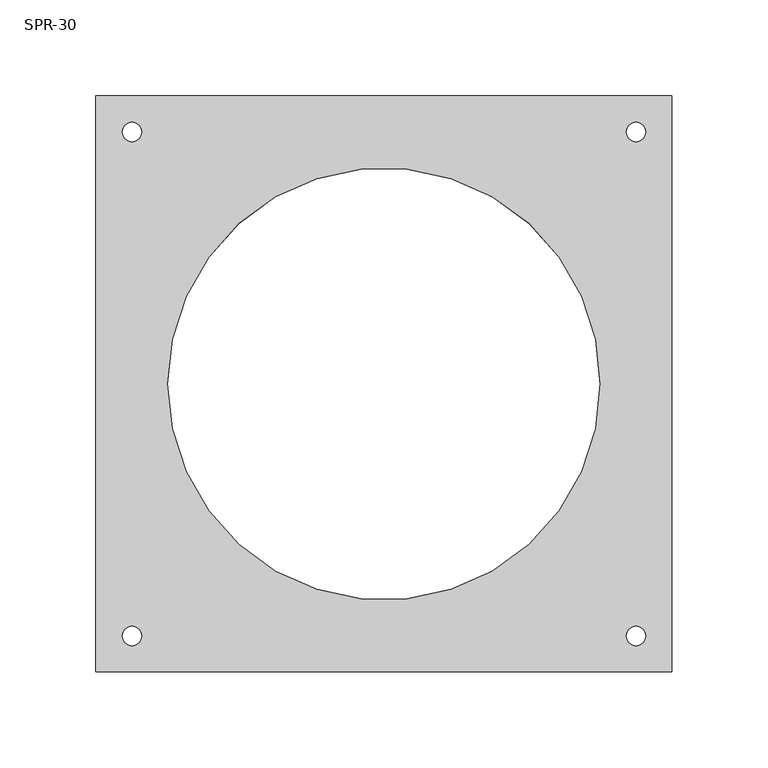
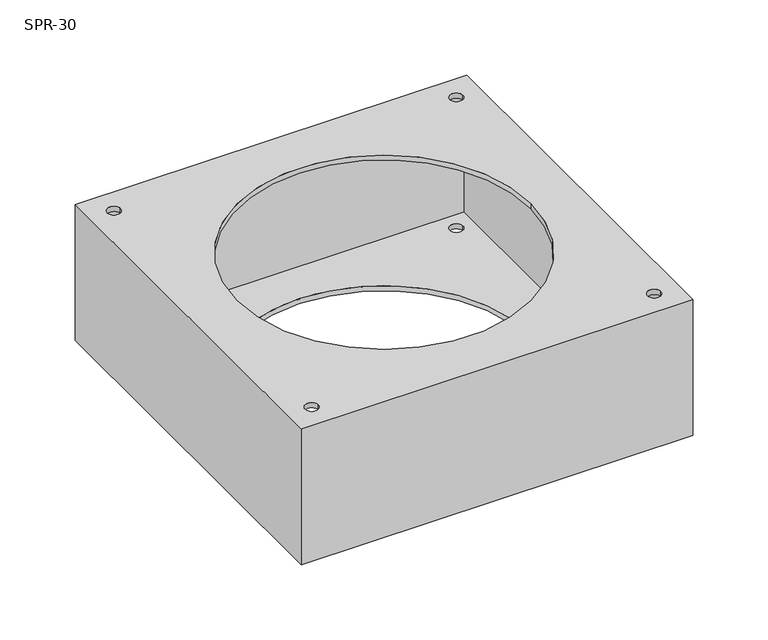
"""IFC4 building model written with IfcOpenShell, lengths in millimetres: damper geometry, СВ_КлапанИнерционный_КрышныйПрямоугольный_30-100_SPR : SPR-30."""

from ifc_helpers import new_model, si_unit, frame, origin, place, context, project, spatial, polyline, circle_curve, source, transform, mapped, element, save
from ifc_brep_helpers import plane_surface, revolved_surface, advanced_brep


def spr_30_7c3b2528(model_context):
    return source(origin(), model_context, "Body", "AdvancedBrep", [
        advanced_brep(
        [(150.0, 150.0, 0.0), (-150.0, 150.0, 0.0), (-150.0, -150.0, 0.0), (150.0, -150.0, 0.0), (-112.5, 0.0, 0.0), (112.5, 0.0, 0.0), (-126.25, -131.25, 0.0), (-136.25, -131.25, 0.0), (136.25, -131.25, 0.0), (126.25, -131.25, 0.0), (136.25, 131.25, 0.0), (126.25, 131.25, 0.0), (-126.25, 131.25, 0.0), (-136.25, 131.25, 0.0), (150.0, 150.0, -110.0), (150.0, -150.0, -110.0), (-150.0, -150.0, -110.0), (-150.0, 150.0, -110.0), (-112.5, 0.0, -110.0), (112.5, 0.0, -110.0), (-136.25, -131.25, -110.0), (-126.25, -131.25, -110.0), (126.25, -131.25, -110.0), (136.25, -131.25, -110.0), (126.25, 131.25, -110.0), (136.25, 131.25, -110.0), (-136.25, 131.25, -110.0), (-126.25, 131.25, -110.0), (-112.5, 0.0, -4.0), (112.5, 0.0, -4.0), (112.5, 0.0, -106.0), (-112.5, 0.0, -106.0), (145.0, 145.0, -4.0), (145.0, -145.0, -4.0), (-145.0, -145.0, -4.0), (-145.0, 145.0, -4.0), (-136.25, -131.25, -4.0), (-126.25, -131.25, -4.0), (126.25, -131.25, -4.0), (136.25, -131.25, -4.0), (126.25, 131.25, -4.0), (136.25, 131.25, -4.0), (-136.25, 131.25, -4.0), (-126.25, 131.25, -4.0), (145.0, 145.0, -106.0), (-145.0, 145.0, -106.0), (-145.0, -145.0, -106.0), (145.0, -145.0, -106.0), (-126.25, -131.25, -106.0), (-136.25, -131.25, -106.0), (136.25, -131.25, -106.0), (126.25, -131.25, -106.0), (136.25, 131.25, -106.0), (126.25, 131.25, -106.0), (-126.25, 131.25, -106.0), (-136.25, 131.25, -106.0)],
        [
            (0, 1),
            (1, 2),
            (2, 3),
            (3, 0),
            (4, 5, circle_curve(frame((0.0, 0.0, 0.0), z_axis=(0.0, 0.0, -1.0), x_axis=(1.0, 0.0, 0.0)), 112.5)),
            (5, 4, circle_curve(frame((0.0, 0.0, 0.0), z_axis=(0.0, 0.0, -1.0), x_axis=(1.0, 0.0, 0.0)), 112.5)),
            (6, 7, circle_curve(frame((-131.25, -131.25, 0.0), z_axis=(0.0, 0.0, -1.0), x_axis=(1.0, 0.0, 0.0)), 5.0)),
            (7, 6, circle_curve(frame((-131.25, -131.25, 0.0), z_axis=(0.0, 0.0, -1.0), x_axis=(1.0, 0.0, 0.0)), 5.0)),
            (8, 9, circle_curve(frame((131.25, -131.25, 0.0), z_axis=(0.0, 0.0, -1.0), x_axis=(1.0, 0.0, 0.0)), 5.0)),
            (9, 8, circle_curve(frame((131.25, -131.25, 0.0), z_axis=(0.0, 0.0, -1.0), x_axis=(1.0, 0.0, 0.0)), 5.0)),
            (10, 11, circle_curve(frame((131.25, 131.25, 0.0), z_axis=(0.0, 0.0, -1.0), x_axis=(1.0, 0.0, 0.0)), 5.0)),
            (11, 10, circle_curve(frame((131.25, 131.25, 0.0), z_axis=(0.0, 0.0, -1.0), x_axis=(1.0, 0.0, 0.0)), 5.0)),
            (12, 13, circle_curve(frame((-131.25, 131.25, 0.0), z_axis=(0.0, 0.0, -1.0), x_axis=(1.0, 0.0, 0.0)), 5.0)),
            (13, 12, circle_curve(frame((-131.25, 131.25, 0.0), z_axis=(0.0, 0.0, -1.0), x_axis=(1.0, 0.0, 0.0)), 5.0)),
            (14, 15),
            (15, 16),
            (16, 17),
            (17, 14),
            (18, 19, circle_curve(frame((0.0, 0.0, -110.0), z_axis=(0.0, 0.0, 1.0), x_axis=(1.0, 0.0, 0.0)), 112.5)),
            (19, 18, circle_curve(frame((0.0, 0.0, -110.0), z_axis=(0.0, 0.0, 1.0), x_axis=(1.0, 0.0, 0.0)), 112.5)),
            (20, 21, circle_curve(frame((-131.25, -131.25, -110.0), z_axis=(0.0, 0.0, 1.0), x_axis=(1.0, 0.0, 0.0)), 5.0)),
            (21, 20, circle_curve(frame((-131.25, -131.25, -110.0), z_axis=(0.0, 0.0, 1.0), x_axis=(1.0, 0.0, 0.0)), 5.0)),
            (22, 23, circle_curve(frame((131.25, -131.25, -110.0), z_axis=(0.0, 0.0, 1.0), x_axis=(1.0, 0.0, 0.0)), 5.0)),
            (23, 22, circle_curve(frame((131.25, -131.25, -110.0), z_axis=(0.0, 0.0, 1.0), x_axis=(1.0, 0.0, 0.0)), 5.0)),
            (24, 25, circle_curve(frame((131.25, 131.25, -110.0), z_axis=(0.0, 0.0, 1.0), x_axis=(1.0, 0.0, 0.0)), 5.0)),
            (25, 24, circle_curve(frame((131.25, 131.25, -110.0), z_axis=(0.0, 0.0, 1.0), x_axis=(1.0, 0.0, 0.0)), 5.0)),
            (26, 27, circle_curve(frame((-131.25, 131.25, -110.0), z_axis=(0.0, 0.0, 1.0), x_axis=(1.0, 0.0, 0.0)), 5.0)),
            (27, 26, circle_curve(frame((-131.25, 131.25, -110.0), z_axis=(0.0, 0.0, 1.0), x_axis=(1.0, 0.0, 0.0)), 5.0)),
            (0, 14),
            (17, 1),
            (16, 2),
            (15, 3),
            (4, 28),
            (28, 29, circle_curve(frame((0.0, 0.0, -4.0), z_axis=(0.0, 0.0, -1.0), x_axis=(1.0, 0.0, 0.0)), 112.5)),
            (29, 5),
            (19, 30),
            (30, 31, circle_curve(frame((0.0, 0.0, -106.0), z_axis=(0.0, 0.0, 1.0), x_axis=(1.0, 0.0, 0.0)), 112.5)),
            (31, 18),
            (29, 28, circle_curve(frame((0.0, 0.0, -4.0), z_axis=(0.0, 0.0, -1.0), x_axis=(1.0, 0.0, 0.0)), 112.5)),
            (31, 30, circle_curve(frame((0.0, 0.0, -106.0), z_axis=(0.0, 0.0, 1.0), x_axis=(1.0, 0.0, 0.0)), 112.5)),
            (32, 33),
            (33, 34),
            (34, 35),
            (35, 32),
            (36, 37, circle_curve(frame((-131.25, -131.25, -4.0), z_axis=(0.0, 0.0, 1.0), x_axis=(1.0, 0.0, 0.0)), 5.0)),
            (37, 36, circle_curve(frame((-131.25, -131.25, -4.0), z_axis=(0.0, 0.0, 1.0), x_axis=(1.0, 0.0, 0.0)), 5.0)),
            (38, 39, circle_curve(frame((131.25, -131.25, -4.0), z_axis=(0.0, 0.0, 1.0), x_axis=(1.0, 0.0, 0.0)), 5.0)),
            (39, 38, circle_curve(frame((131.25, -131.25, -4.0), z_axis=(0.0, 0.0, 1.0), x_axis=(1.0, 0.0, 0.0)), 5.0)),
            (40, 41, circle_curve(frame((131.25, 131.25, -4.0), z_axis=(0.0, 0.0, 1.0), x_axis=(1.0, 0.0, 0.0)), 5.0)),
            (41, 40, circle_curve(frame((131.25, 131.25, -4.0), z_axis=(0.0, 0.0, 1.0), x_axis=(1.0, 0.0, 0.0)), 5.0)),
            (42, 43, circle_curve(frame((-131.25, 131.25, -4.0), z_axis=(0.0, 0.0, 1.0), x_axis=(1.0, 0.0, 0.0)), 5.0)),
            (43, 42, circle_curve(frame((-131.25, 131.25, -4.0), z_axis=(0.0, 0.0, 1.0), x_axis=(1.0, 0.0, 0.0)), 5.0)),
            (44, 45),
            (45, 46),
            (46, 47),
            (47, 44),
            (48, 49, circle_curve(frame((-131.25, -131.25, -106.0), z_axis=(0.0, 0.0, -1.0), x_axis=(1.0, 0.0, 0.0)), 5.0)),
            (49, 48, circle_curve(frame((-131.25, -131.25, -106.0), z_axis=(0.0, 0.0, -1.0), x_axis=(1.0, 0.0, 0.0)), 5.0)),
            (50, 51, circle_curve(frame((131.25, -131.25, -106.0), z_axis=(0.0, 0.0, -1.0), x_axis=(1.0, 0.0, 0.0)), 5.0)),
            (51, 50, circle_curve(frame((131.25, -131.25, -106.0), z_axis=(0.0, 0.0, -1.0), x_axis=(1.0, 0.0, 0.0)), 5.0)),
            (52, 53, circle_curve(frame((131.25, 131.25, -106.0), z_axis=(0.0, 0.0, -1.0), x_axis=(1.0, 0.0, 0.0)), 5.0)),
            (53, 52, circle_curve(frame((131.25, 131.25, -106.0), z_axis=(0.0, 0.0, -1.0), x_axis=(1.0, 0.0, 0.0)), 5.0)),
            (54, 55, circle_curve(frame((-131.25, 131.25, -106.0), z_axis=(0.0, 0.0, -1.0), x_axis=(1.0, 0.0, 0.0)), 5.0)),
            (55, 54, circle_curve(frame((-131.25, 131.25, -106.0), z_axis=(0.0, 0.0, -1.0), x_axis=(1.0, 0.0, 0.0)), 5.0)),
            (35, 45),
            (44, 32),
            (34, 46),
            (33, 47),
            (36, 7),
            (6, 37),
            (20, 49),
            (48, 21),
            (38, 9),
            (8, 39),
            (22, 51),
            (50, 23),
            (40, 11),
            (10, 41),
            (24, 53),
            (52, 25),
            (42, 13),
            (12, 43),
            (26, 55),
            (54, 27),
        ],
        [
            plane_surface(frame((-150.0, 150.0, 0.0), z_axis=(0.0, 0.0, 1.0), x_axis=(-1.0, 0.0, 0.0))),
            plane_surface(frame((-150.0, 150.0, -110.0), z_axis=(0.0, 0.0, -1.0), x_axis=(1.0, 0.0, 0.0))),
            plane_surface(frame((150.0, 150.0, 0.0), z_axis=(0.0, 1.0, 0.0), x_axis=(0.0, 0.0, -1.0))),
            plane_surface(frame((-150.0, 150.0, 0.0), z_axis=(-1.0, 0.0, 0.0), x_axis=(0.0, 0.0, -1.0))),
            plane_surface(frame((-150.0, -150.0, 0.0), z_axis=(0.0, -1.0, 0.0), x_axis=(0.0, 0.0, -1.0))),
            plane_surface(frame((150.0, -150.0, 0.0), z_axis=(1.0, 0.0, 0.0), x_axis=(0.0, 0.0, -1.0))),
            revolved_surface(polyline([(112.5, 0.0, -4.0), (112.5, 0.0, 0.0)]), (0.0, 0.0, 0.0), (0.0, 0.0, -1.0)),
            revolved_surface(polyline([(112.5, 0.0, -110.0), (112.5, 0.0, -106.0)]), (0.0, 0.0, 0.0), (0.0, 0.0, -1.0)),
            plane_surface(frame((-145.0, 145.0, -4.0), z_axis=(0.0, 0.0, -1.0), x_axis=(-1.0, 0.0, 0.0))),
            plane_surface(frame((-145.0, 145.0, -106.0), z_axis=(0.0, 0.0, 1.0), x_axis=(1.0, 0.0, 0.0))),
            plane_surface(frame((145.0, 145.0, -4.0), z_axis=(0.0, -1.0, 0.0), x_axis=(0.0, 0.0, -1.0))),
            plane_surface(frame((-145.0, 145.0, -4.0), z_axis=(1.0, 0.0, 0.0), x_axis=(0.0, 0.0, -1.0))),
            plane_surface(frame((-145.0, -145.0, -4.0), z_axis=(0.0, 1.0, 0.0), x_axis=(0.0, 0.0, -1.0))),
            plane_surface(frame((145.0, -145.0, -4.0), z_axis=(-1.0, 0.0, 0.0), x_axis=(0.0, 0.0, -1.0))),
            revolved_surface(polyline([(-126.25, -131.25, 0.0), (-126.25, -131.25, -4.0)]), (-131.25, -131.25, -110.0), (0.0, 0.0, 1.0)),
            revolved_surface(polyline([(-126.25, -131.25, -106.0), (-126.25, -131.25, -110.0)]), (-131.25, -131.25, -110.0), (0.0, 0.0, 1.0)),
            revolved_surface(polyline([(136.25, -131.25, 0.0), (136.25, -131.25, -4.0)]), (131.25, -131.25, 0.0), (0.0, 0.0, 1.0)),
            revolved_surface(polyline([(136.25, -131.25, -106.0), (136.25, -131.25, -110.0)]), (131.25, -131.25, 0.0), (0.0, 0.0, 1.0)),
            revolved_surface(polyline([(136.25, 131.25, 0.0), (136.25, 131.25, -4.0)]), (131.25, 131.25, 0.0), (0.0, 0.0, 1.0)),
            revolved_surface(polyline([(136.25, 131.25, -106.0), (136.25, 131.25, -110.0)]), (131.25, 131.25, 0.0), (0.0, 0.0, 1.0)),
            revolved_surface(polyline([(-126.25, 131.25, 0.0), (-126.25, 131.25, -4.0)]), (-131.25, 131.25, 0.0), (0.0, 0.0, 1.0)),
            revolved_surface(polyline([(-126.25, 131.25, -106.0), (-126.25, 131.25, -110.0)]), (-131.25, 131.25, 0.0), (0.0, 0.0, 1.0)),
        ],
        [
            (0, [[1, 2, 3, 4], [5, 6], [7, 8], [9, 10], [11, 12], [13, 14]]),
            (1, [[15, 16, 17, 18], [19, 20], [21, 22], [23, 24], [25, 26], [27, 28]]),
            (2, [[-1, 29, -18, 30]]),
            (3, [[-2, -30, -17, 31]]),
            (4, [[-3, -31, -16, 32]]),
            (5, [[-4, -32, -15, -29]]),
            (6, [[-5, 33, 34, 35]]),
            (7, [[-20, 36, 37, 38]]),
            (6, [[-6, -35, 39, -33]]),
            (7, [[-19, -38, 40, -36]]),
            (8, [[41, 42, 43, 44], [-34, -39], [45, 46], [47, 48], [49, 50], [51, 52]]),
            (9, [[53, 54, 55, 56], [-37, -40], [57, 58], [59, 60], [61, 62], [63, 64]]),
            (10, [[-44, 65, -53, 66]]),
            (11, [[-43, 67, -54, -65]]),
            (12, [[-42, 68, -55, -67]]),
            (13, [[-41, -66, -56, -68]]),
            (14, [[69, -7, 70, -45]]),
            (15, [[71, -57, 72, -21]]),
            (14, [[-69, -46, -70, -8]]),
            (15, [[-71, -22, -72, -58]]),
            (16, [[73, -9, 74, -47]]),
            (17, [[75, -59, 76, -23]]),
            (16, [[-73, -48, -74, -10]]),
            (17, [[-75, -24, -76, -60]]),
            (18, [[77, -11, 78, -49]]),
            (19, [[79, -61, 80, -25]]),
            (18, [[-77, -50, -78, -12]]),
            (19, [[-79, -26, -80, -62]]),
            (20, [[81, -13, 82, -51]]),
            (21, [[83, -63, 84, -27]]),
            (20, [[-81, -52, -82, -14]]),
            (21, [[-83, -28, -84, -64]]),
        ],
    ),
    ])


if __name__ == "__main__":
    model = new_model("IFC4")
    model_context = context("Model", 3, world=origin())
    ifc_project = project(units=[si_unit("LENGTHUNIT", "METRE", prefix="MILLI")], contexts=[model_context])
    site = spatial("IfcSite", under=ifc_project)
    building = spatial("IfcBuilding", under=site)
    placement = place(None, origin())
    spr_30_shape = spr_30_7c3b2528(model_context)
    element("IfcDamper", 1, ObjectType="СВ_КлапанИнерционный_КрышныйПрямоугольный_30-100_SPR : SPR-30", at=placement, inside=building, context=model_context, shape_type="MappedRepresentation", body=[
        mapped(spr_30_shape, transform((0.0, 0.0, 0.0), x_axis=(1.0, 0.0, 0.0), y_axis=(0.0, 1.0, 0.0), z_axis=(0.0, 0.0, 1.0))),
    ])
    save(model, "model.ifc")
